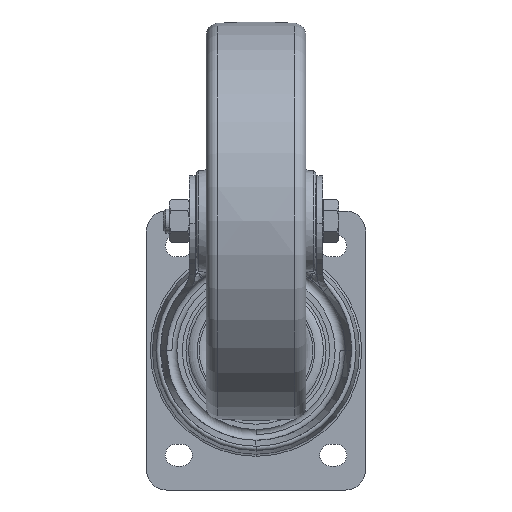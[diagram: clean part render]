
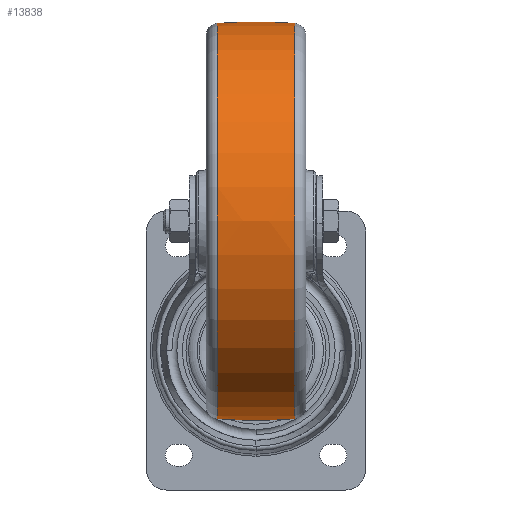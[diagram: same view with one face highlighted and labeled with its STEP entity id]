
A CAD part, front view. The second image highlights one B-rep face of the part: STEP entity #13838.
In plain terms, the highlighted free-form (B-spline) face has degree [3, 3] with [7, 4] control points.
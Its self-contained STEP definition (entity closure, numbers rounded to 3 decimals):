
#3279 = CARTESIAN_POINT ( 'NONE',  ( -20.244, -61.035, 99.179 ) ) ;
#3559 = CARTESIAN_POINT ( 'NONE',  ( -20.244, 98.983, -6.228 ) ) ;
#6716 = EDGE_LOOP ( 'NONE', ( #8568, #40041, #66688, #80968 ) ) ;
#6925 = CARTESIAN_POINT ( 'NONE',  ( 19.467, 99.241, 0. ) ) ;
#8400 = DIRECTION ( 'NONE',  ( 0.078, -0.997, 0. ) ) ;
#8568 = ORIENTED_EDGE ( 'NONE', *, *, #47968, .T. ) ;
#9585 = CARTESIAN_POINT ( 'NONE',  ( -6.763, 0., 100.274 ) ) ;
#10135 = CARTESIAN_POINT ( 'NONE',  ( 20.244, 102.816, 54.687 ) ) ;
#10425 = CARTESIAN_POINT ( 'NONE',  ( -20.244, 0., 99.179 ) ) ;
#13838 = ADVANCED_FACE ( 'NONE', ( #83461 ), #52987, .T. ) ;
#14873 = DIRECTION ( 'NONE',  ( 0., -1., 0. ) ) ;
#16131 = CARTESIAN_POINT ( 'NONE',  ( -6.763, 103.951, 55.291 ) ) ;
#16414 = CARTESIAN_POINT ( 'NONE',  ( -6.763, -61.709, 100.274 ) ) ;
#16969 = AXIS2_PLACEMENT_3D ( 'NONE', #18401, #84034, #70557 ) ;
#16976 = CARTESIAN_POINT ( 'NONE',  ( -20.244, 61.035, 99.179 ) ) ;
#18401 = CARTESIAN_POINT ( 'NONE',  ( -19.467, 0., 0. ) ) ;
#22121 = VERTEX_POINT ( 'NONE', #6925 ) ;
#22708 = CARTESIAN_POINT ( 'NONE',  ( 20.244, -98.983, -6.228 ) ) ;
#22986 = CARTESIAN_POINT ( 'NONE',  ( 20.244, 61.035, 99.179 ) ) ;
#23551 = CARTESIAN_POINT ( 'NONE',  ( 20.244, 98.983, -6.228 ) ) ;
#27845 = CARTESIAN_POINT ( 'NONE',  ( 0., 150., 0. ) ) ;
#28300 = CIRCLE ( 'NONE', #79981, 99.241 ) ;
#28849 = DIRECTION ( 'NONE',  ( -1., 0., 0. ) ) ;
#29560 = CARTESIAN_POINT ( 'NONE',  ( 6.763, 100.076, -6.296 ) ) ;
#30069 = CIRCLE ( 'NONE', #36342, 250. ) ;
#32479 = DIRECTION ( 'NONE',  ( 0.078, 0.997, 0. ) ) ;
#34448 = DIRECTION ( 'NONE',  ( 0., 0., -1. ) ) ;
#35622 = CARTESIAN_POINT ( 'NONE',  ( 20.244, 0., 99.179 ) ) ;
#36342 = AXIS2_PLACEMENT_3D ( 'NONE', #77813, #38792, #32479 ) ;
#36455 = CARTESIAN_POINT ( 'NONE',  ( 20.244, -61.035, 99.179 ) ) ;
#37707 = EDGE_CURVE ( 'NONE', #55516, #84478, #79274, .T. ) ;
#38792 = DIRECTION ( 'NONE',  ( 0., 0., 1. ) ) ;
#40041 = ORIENTED_EDGE ( 'NONE', *, *, #73791, .T. ) ;
#40177 = CARTESIAN_POINT ( 'NONE',  ( -19.467, 99.241, 0. ) ) ;
#42448 = CARTESIAN_POINT ( 'NONE',  ( -20.244, -102.816, 54.687 ) ) ;
#42728 = CARTESIAN_POINT ( 'NONE',  ( 6.763, -103.951, 55.291 ) ) ;
#45233 = CARTESIAN_POINT ( 'NONE',  ( -19.467, -99.241, 0. ) ) ;
#47968 = EDGE_CURVE ( 'NONE', #83903, #22121, #28300, .T. ) ;
#48326 = CARTESIAN_POINT ( 'NONE',  ( 19.467, 0., 0. ) ) ;
#48755 = CARTESIAN_POINT ( 'NONE',  ( 20.244, -102.816, 54.687 ) ) ;
#49315 = CARTESIAN_POINT ( 'NONE',  ( 6.763, 0., 100.274 ) ) ;
#49604 = CARTESIAN_POINT ( 'NONE',  ( 6.763, 61.709, 100.274 ) ) ;
#52987 =( BOUNDED_SURFACE ( )  B_SPLINE_SURFACE ( 3, 3, ( 
 ( #22708, #81198, #74593, #61559 ),
 ( #48755, #42728, #75451, #42448 ),
 ( #36455, #81483, #16414, #3279 ),
 ( #35622, #49315, #9585, #10425 ),
 ( #22986, #49604, #56106, #16976 ),
 ( #10135, #55259, #16131, #61832 ),
 ( #23551, #29560, #82072, #3559 ) ),
 .UNSPECIFIED., .F., .F., .F. ) 
 B_SPLINE_SURFACE_WITH_KNOTS ( ( 4, 3, 4 ),
 ( 4, 4 ),
 ( 0., 1., 2. ),
 ( 0., 1. ),
 .UNSPECIFIED. ) 
 GEOMETRIC_REPRESENTATION_ITEM ( )  RATIONAL_B_SPLINE_SURFACE ( (
 ( 1.189, 1.187, 1.187, 1.189),
 ( 0.939, 0.937, 0.937, 0.939),
 ( 0.939, 0.937, 0.937, 0.939),
 ( 1.189, 1.187, 1.187, 1.189),
 ( 0.939, 0.937, 0.937, 0.939),
 ( 0.939, 0.937, 0.937, 0.939),
 ( 1.189, 1.187, 1.187, 1.189) ) ) 
 REPRESENTATION_ITEM ( '' )  SURFACE ( )  );
#55259 = CARTESIAN_POINT ( 'NONE',  ( 6.763, 103.951, 55.291 ) ) ;
#55516 = VERTEX_POINT ( 'NONE', #45233 ) ;
#56106 = CARTESIAN_POINT ( 'NONE',  ( -6.763, 61.709, 100.274 ) ) ;
#61006 = EDGE_CURVE ( 'NONE', #83903, #55516, #74145, .T. ) ;
#61559 = CARTESIAN_POINT ( 'NONE',  ( -20.244, -98.983, -6.228 ) ) ;
#61832 = CARTESIAN_POINT ( 'NONE',  ( -20.244, 102.816, 54.687 ) ) ;
#66688 = ORIENTED_EDGE ( 'NONE', *, *, #37707, .F. ) ;
#70144 = CARTESIAN_POINT ( 'NONE',  ( 19.467, -99.241, 0. ) ) ;
#70557 = DIRECTION ( 'NONE',  ( 0., -1., 0. ) ) ;
#72370 = AXIS2_PLACEMENT_3D ( 'NONE', #27845, #34448, #8400 ) ;
#73791 = EDGE_CURVE ( 'NONE', #22121, #84478, #30069, .T. ) ;
#74145 = CIRCLE ( 'NONE', #72370, 250. ) ;
#74593 = CARTESIAN_POINT ( 'NONE',  ( -6.763, -100.076, -6.296 ) ) ;
#75451 = CARTESIAN_POINT ( 'NONE',  ( -6.763, -103.951, 55.291 ) ) ;
#77813 = CARTESIAN_POINT ( 'NONE',  ( 0., -150., 0. ) ) ;
#79274 = CIRCLE ( 'NONE', #16969, 99.241 ) ;
#79981 = AXIS2_PLACEMENT_3D ( 'NONE', #48326, #28849, #14873 ) ;
#80968 = ORIENTED_EDGE ( 'NONE', *, *, #61006, .F. ) ;
#81198 = CARTESIAN_POINT ( 'NONE',  ( 6.763, -100.076, -6.296 ) ) ;
#81483 = CARTESIAN_POINT ( 'NONE',  ( 6.763, -61.709, 100.274 ) ) ;
#82072 = CARTESIAN_POINT ( 'NONE',  ( -6.763, 100.076, -6.296 ) ) ;
#83461 = FACE_OUTER_BOUND ( 'NONE', #6716, .T. ) ;
#83903 = VERTEX_POINT ( 'NONE', #70144 ) ;
#84034 = DIRECTION ( 'NONE',  ( -1., 0., 0. ) ) ;
#84478 = VERTEX_POINT ( 'NONE', #40177 ) ;
